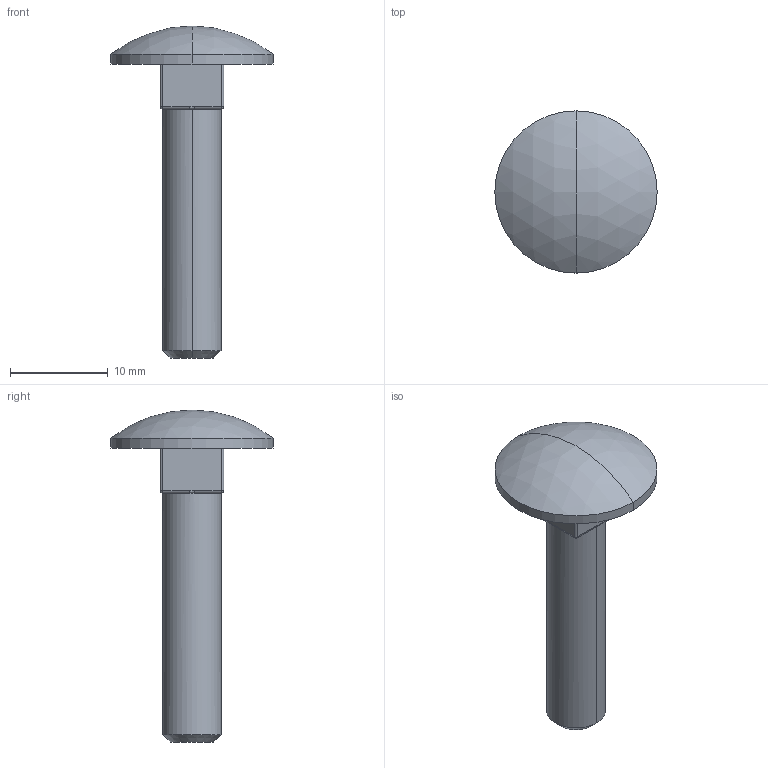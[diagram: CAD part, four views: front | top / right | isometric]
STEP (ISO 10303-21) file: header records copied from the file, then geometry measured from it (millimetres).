
FILE_DESCRIPTION((''),'2;1');
FILE_NAME('900630MSS','2023-03-02T',('jenni.wallner'),(''),'PRO/ENGINEER BY PARAMETRIC TECHNOLOGY CORPORATION, 2012420','PRO/ENGINEER BY PARAMETRIC TECHNOLOGY CORPORATION, 2012420','');
FILE_SCHEMA(('CONFIG_CONTROL_DESIGN'));
Length unit declared in the file: inch
Products named in the file (1): 900630MSS
Bounding box: 16.55 x 16.55 x 33.88 mm (x, y, z)
Volume: 1443.1 mm3; surface area: 1092.4 mm2
Topology: 1 solids, 1 shells, 38 faces, 86 edges, 47 vertices
Faces by surface type: cylinder 16, plane 10, sphere 6, bspline 4, cone 2
Entity records: 1111 total; most frequent: CARTESIAN_POINT 236, DIRECTION 190, ORIENTED_EDGE 164, EDGE_CURVE 82, AXIS2_PLACEMENT_3D 78, VERTEX_POINT 47, CIRCLE 44, EDGE_LOOP 39
